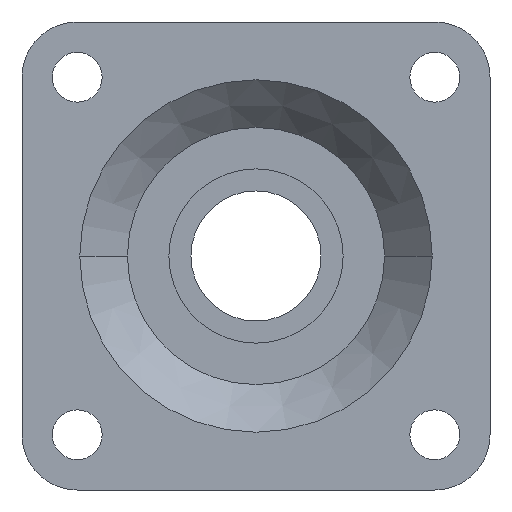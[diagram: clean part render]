
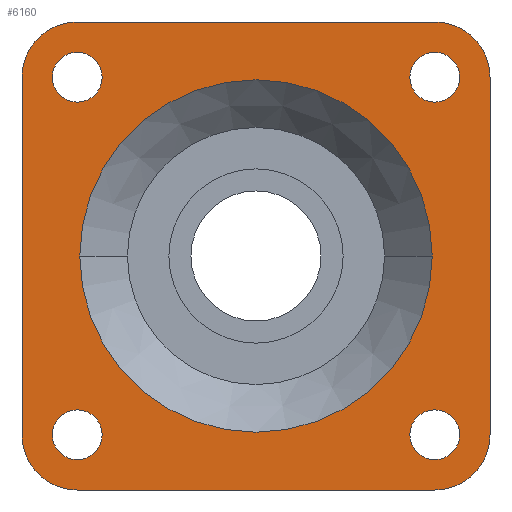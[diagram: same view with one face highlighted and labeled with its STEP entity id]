
A CAD part, left-side view. The second image highlights one B-rep face of the part: STEP entity #6160.
In plain terms, the highlighted planar face has unit normal (-1, 0, 0).
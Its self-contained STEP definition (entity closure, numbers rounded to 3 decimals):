
#120=CARTESIAN_POINT('',(-20.,41.25,47.));
#130=VERTEX_POINT('VERTEX12123',#120);
#160=CARTESIAN_POINT('',(-20.,41.25,41.25));
#170=DIRECTION('',(1.,0.,0.));
#180=DIRECTION('',(0.,0.,-1.));
#190=AXIS2_PLACEMENT_3D('',#160,#170,#180);
#200=CIRCLE('',#190,5.75);
#210=CARTESIAN_POINT('',(-20.,41.25,35.5));
#220=VERTEX_POINT('',#210);
#230=EDGE_CURVE('',#130,#220,#200,.T.);
#2510=CARTESIAN_POINT('',(-20.,-41.25,35.5));
#2520=VERTEX_POINT('VERTEX12124',#2510);
#2600=CARTESIAN_POINT('',(-20.,-41.25,47.));
#2610=VERTEX_POINT('',#2600);
#2640=CARTESIAN_POINT('',(-20.,-41.25,41.25));
#2650=DIRECTION('',(1.,0.,0.));
#2660=DIRECTION('',(0.,0.,-1.));
#2670=AXIS2_PLACEMENT_3D('',#2640,#2650,#2660);
#2680=CIRCLE('',#2670,5.75);
#2690=EDGE_CURVE('EDGE18323',#2610,#2520,#2680,.T.);
#2830=CARTESIAN_POINT('',(-20.,-41.25,-47.));
#2840=VERTEX_POINT('VERTEX12126',#2830);
#2870=CARTESIAN_POINT('',(-20.,-41.25,-41.25));
#2880=DIRECTION('',(1.,0.,0.));
#2890=DIRECTION('',(0.,0.,-1.));
#2900=AXIS2_PLACEMENT_3D('',#2870,#2880,#2890);
#2910=CIRCLE('',#2900,5.75);
#2920=CARTESIAN_POINT('',(-20.,-41.25,-35.5));
#2930=VERTEX_POINT('',#2920);
#2940=EDGE_CURVE('',#2840,#2930,#2910,.T.);
#3170=CARTESIAN_POINT('',(-20.,-40.665,0.))
;
#3180=VERTEX_POINT('',#3170);
#3340=CARTESIAN_POINT('',(-20.,40.665,0.));
#3350=VERTEX_POINT('VERTEX12131',#3340);
#3380=CARTESIAN_POINT('',(-20.,0.,0.));
#3390=DIRECTION('',(-1.,0.,0.));
#3400=DIRECTION('',(0.,1.,0.));
#3410=AXIS2_PLACEMENT_3D('',#3380,#3390,#3400);
#3420=CIRCLE('',#3410,40.665);
#3430=EDGE_CURVE('EDGE18335',#3180,#3350,#3420,.T.);
#3570=CARTESIAN_POINT('',(-20.,41.25,54.));
#3580=VERTEX_POINT('VERTEX12113',#3570);
#3610=CARTESIAN_POINT('',(-20.,41.25,41.25));
#3620=DIRECTION('',(-1.,0.,0.));
#3630=DIRECTION('',(0.,1.,0.));
#3640=AXIS2_PLACEMENT_3D('',#3610,#3620,#3630);
#3650=CIRCLE('',#3640,12.75);
#3660=CARTESIAN_POINT('',(-20.,54.,41.25));
#3670=VERTEX_POINT('VERTEX12112',#3660);
#3680=EDGE_CURVE('EDGE18298',#3580,#3670,#3650,.T.);
#3890=CARTESIAN_POINT('',(-20.,-41.25,54.));
#3900=VERTEX_POINT('VERTEX12114',#3890);
#3930=CARTESIAN_POINT('',(-20.,16.541,54.));
#3940=DIRECTION('',(0.,1.,0.));
#3950=VECTOR('',#3940,1.);
#3960=LINE('',#3930,#3950);
#3970=EDGE_CURVE('EDGE18300',#3900,#3580,#3960,.T.);
#4130=CARTESIAN_POINT('',(-20.,-54.,41.25));
#4140=VERTEX_POINT('VERTEX12115',#4130);
#4170=CARTESIAN_POINT('',(-20.,-41.25,41.25));
#4180=DIRECTION('',(-1.,0.,0.));
#4190=DIRECTION('',(0.,0.,1.));
#4200=AXIS2_PLACEMENT_3D('',#4170,#4180,#4190);
#4210=CIRCLE('',#4200,12.75);
#4220=EDGE_CURVE('EDGE18302',#4140,#3900,#4210,.T.);
#4380=CARTESIAN_POINT('',(-20.,-54.,-41.25));
#4390=VERTEX_POINT('VERTEX12116',#4380);
#4420=CARTESIAN_POINT('',(-20.,-54.,-20.625));
#4430=DIRECTION('',(0.,0.,1.));
#4440=VECTOR('',#4430,1.);
#4450=LINE('',#4420,#4440);
#4460=EDGE_CURVE('EDGE18304',#4390,#4140,#4450,.T.);
#4620=CARTESIAN_POINT('',(-20.,-41.25,-54.));
#4630=VERTEX_POINT('VERTEX12117',#4620);
#4660=CARTESIAN_POINT('',(-20.,-41.25,-41.25));
#4670=DIRECTION('',(-1.,0.,0.));
#4680=DIRECTION('',(0.,-1.,0.));
#4690=AXIS2_PLACEMENT_3D('',#4660,#4670,#4680);
#4700=CIRCLE('',#4690,12.75);
#4710=EDGE_CURVE('EDGE18306',#4630,#4390,#4700,.T.);
#4870=CARTESIAN_POINT('',(-20.,41.25,-54.));
#4880=VERTEX_POINT('VERTEX12118',#4870);
#4910=CARTESIAN_POINT('',(-20.,57.791,-54.));
#4920=DIRECTION('',(0.,-1.,0.));
#4930=VECTOR('',#4920,1.);
#4940=LINE('',#4910,#4930);
#4950=EDGE_CURVE('EDGE18308',#4880,#4630,#4940,.T.);
#5110=CARTESIAN_POINT('',(-20.,54.,-41.25));
#5120=VERTEX_POINT('VERTEX12119',#5110);
#5150=CARTESIAN_POINT('',(-20.,41.25,-41.25));
#5160=DIRECTION('',(-1.,0.,0.));
#5170=DIRECTION('',(0.,0.,-1.));
#5180=AXIS2_PLACEMENT_3D('',#5150,#5160,#5170);
#5190=CIRCLE('',#5180,12.75);
#5200=EDGE_CURVE('EDGE18310',#5120,#4880,#5190,.T.);
#5330=CARTESIAN_POINT('',(-20.,54.,20.625));
#5340=DIRECTION('',(0.,0.,-1.));
#5350=VECTOR('',#5340,1.);
#5360=LINE('',#5330,#5350);
#5370=EDGE_CURVE('EDGE18312',#3670,#5120,#5360,.T.);
#5530=CARTESIAN_POINT('',(-20.,41.25,-47.));
#5540=VERTEX_POINT('VERTEX12120',#5530);
#5570=CARTESIAN_POINT('',(-20.,41.25,-41.25));
#5580=DIRECTION('',(1.,0.,0.));
#5590=DIRECTION('',(0.,0.,-1.));
#5600=AXIS2_PLACEMENT_3D('',#5570,#5580,#5590);
#5610=CIRCLE('',#5600,5.75);
#5620=CARTESIAN_POINT('',(-20.,41.25,-35.5));
#5630=VERTEX_POINT('',#5620);
#5640=EDGE_CURVE('',#5540,#5630,#5610,.T.);
#5760=CARTESIAN_POINT('',(-20.,74.332,0.));
#5770=DIRECTION('',(-1.,0.,0.));
#5780=DIRECTION('',(0.,1.,0.));
#5790=AXIS2_PLACEMENT_3D('',#5760,#5770,#5780);
#5800=PLANE('',#5790);
#5810=ORIENTED_EDGE('',*,*,#2940,.T.);
#5820=EDGE_CURVE('EDGE18327',#2930,#2840,#2910,.T.);
#5830=ORIENTED_EDGE('',*,*,#5820,.T.);
#5840=EDGE_LOOP('',(#5830,#5810));
#5850=FACE_BOUND('',#5840,.T.);
#5860=EDGE_CURVE('',#2520,#2610,#2680,.T.);
#5870=ORIENTED_EDGE('',*,*,#5860,.T.);
#5880=ORIENTED_EDGE('',*,*,#2690,.T.);
#5890=EDGE_LOOP('',(#5880,#5870));
#5900=FACE_BOUND('',#5890,.T.);
#5910=ORIENTED_EDGE('',*,*,#230,.T.);
#5920=EDGE_CURVE('EDGE18319',#220,#130,#200,.T.);
#5930=ORIENTED_EDGE('',*,*,#5920,.T.);
#5940=EDGE_LOOP('',(#5930,#5910));
#5950=FACE_BOUND('',#5940,.T.);
#5960=ORIENTED_EDGE('',*,*,#5640,.T.);
#5970=EDGE_CURVE('EDGE18315',#5630,#5540,#5610,.T.);
#5980=ORIENTED_EDGE('',*,*,#5970,.T.);
#5990=EDGE_LOOP('',(#5980,#5960));
#6000=FACE_BOUND('',#5990,.T.);
#6010=ORIENTED_EDGE('',*,*,#3680,.T.);
#6020=ORIENTED_EDGE('',*,*,#3970,.T.);
#6030=ORIENTED_EDGE('',*,*,#4220,.T.);
#6040=ORIENTED_EDGE('',*,*,#4460,.T.);
#6050=ORIENTED_EDGE('',*,*,#4710,.T.);
#6060=ORIENTED_EDGE('',*,*,#4950,.T.);
#6070=ORIENTED_EDGE('',*,*,#5200,.T.);
#6080=ORIENTED_EDGE('',*,*,#5370,.T.);
#6090=EDGE_LOOP('',(#6080,#6070,#6060,#6050,#6040,#6030,#6020,#6010));
#6100=FACE_OUTER_BOUND('',#6090,.T.);
#6110=EDGE_CURVE('',#3350,#3180,#3420,.T.);
#6120=ORIENTED_EDGE('',*,*,#6110,.F.);
#6130=ORIENTED_EDGE('',*,*,#3430,.F.);
#6140=EDGE_LOOP('',(#6130,#6120));
#6150=FACE_BOUND('',#6140,.T.);
#6160=ADVANCED_FACE('FACE8385',(#5850,#5900,#5950,#6000,#6100,#6150),
#5800,.T.);
